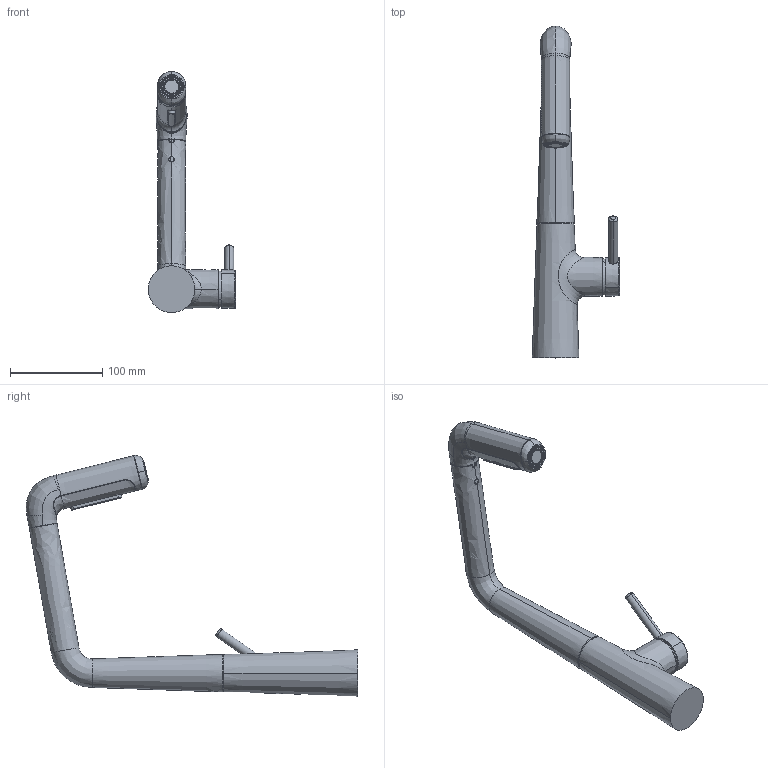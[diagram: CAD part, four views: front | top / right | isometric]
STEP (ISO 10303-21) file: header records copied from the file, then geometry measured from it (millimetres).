
FILE_DESCRIPTION((''),'2;1');
FILE_NAME('10481002','2020-04-22T16:12:05',('BD984'),(''),'CREO PARAMETRIC BY PTC INC, 2018500','CREO PARAMETRIC BY PTC INC, 2018500','');
FILE_SCHEMA(('CONFIG_CONTROL_DESIGN'));
Products named in the file (1): 10481002
Bounding box: 94.95 x 359.58 x 261.43 mm (x, y, z)
Volume: 723256.9 mm3; surface area: 83378.1 mm2
Topology: 1 solids, 1 shells, 878 faces, 2255 edges, 1377 vertices
Faces by surface type: cylinder 336, torus 220, plane 163, bspline 112, cone 34, extrusion 7, sphere 6
Entity records: 46919 total; most frequent: CARTESIAN_POINT 26630, ORIENTED_EDGE 4462, DIRECTION 4005, EDGE_CURVE 2231, AXIS2_PLACEMENT_3D 1657, VERTEX_POINT 1377, EDGE_LOOP 946, CIRCLE 898
